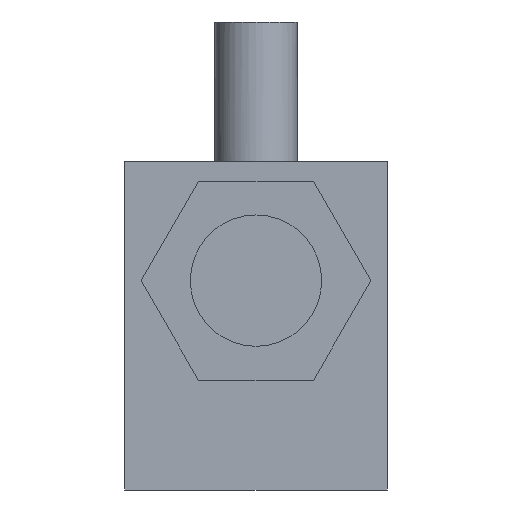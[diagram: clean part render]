
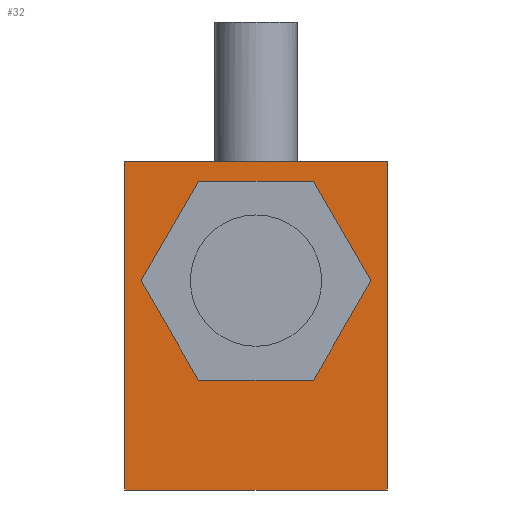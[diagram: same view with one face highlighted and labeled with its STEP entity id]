
A CAD part, front view. The second image highlights one B-rep face of the part: STEP entity #32.
In plain terms, the highlighted planar face has unit normal (0, -1, 0).
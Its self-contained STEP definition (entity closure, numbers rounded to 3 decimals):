
#32 = ADVANCED_FACE ( 'NONE', ( #408, #359 ), #358, .T. ) ;
#33 = EDGE_LOOP ( 'NONE', ( #55, #58, #49, #93 ) ) ;
#34 = VERTEX_POINT ( 'NONE', #502 ) ;
#47 = EDGE_CURVE ( 'NONE', #57, #48, #356, .T. ) ;
#48 = VERTEX_POINT ( 'NONE', #352 ) ;
#49 = ORIENTED_EDGE ( 'NONE', *, *, #50, .T. ) ;
#50 = EDGE_CURVE ( 'NONE', #48, #51, #370, .T. ) ;
#51 = VERTEX_POINT ( 'NONE', #366 ) ;
#55 = ORIENTED_EDGE ( 'NONE', *, *, #56, .T. ) ;
#56 = EDGE_CURVE ( 'NONE', #34, #57, #365, .T. ) ;
#57 = VERTEX_POINT ( 'NONE', #467 ) ;
#58 = ORIENTED_EDGE ( 'NONE', *, *, #47, .T. ) ;
#90 = EDGE_CURVE ( 'NONE', #91, #209, #439, .T. ) ;
#91 = VERTEX_POINT ( 'NONE', #623 ) ;
#92 = ORIENTED_EDGE ( 'NONE', *, *, #211, .F. ) ;
#93 = ORIENTED_EDGE ( 'NONE', *, *, #218, .T. ) ;
#94 = EDGE_CURVE ( 'NONE', #95, #261, #619, .T. ) ;
#95 = VERTEX_POINT ( 'NONE', #653 ) ;
#105 = ORIENTED_EDGE ( 'NONE', *, *, #106, .F. ) ;
#106 = EDGE_CURVE ( 'NONE', #261, #251, #537, .T. ) ;
#170 = ORIENTED_EDGE ( 'NONE', *, *, #94, .F. ) ;
#208 = EDGE_CURVE ( 'NONE', #209, #95, #688, .T. ) ;
#209 = VERTEX_POINT ( 'NONE', #736 ) ;
#210 = ORIENTED_EDGE ( 'NONE', *, *, #90, .F. ) ;
#211 = EDGE_CURVE ( 'NONE', #212, #91, #735, .T. ) ;
#212 = VERTEX_POINT ( 'NONE', #723 ) ;
#213 = ORIENTED_EDGE ( 'NONE', *, *, #214, .F. ) ;
#214 = EDGE_CURVE ( 'NONE', #251, #212, #722, .T. ) ;
#217 = EDGE_LOOP ( 'NONE', ( #170, #262, #210, #92, #213, #105 ) ) ;
#218 = EDGE_CURVE ( 'NONE', #51, #34, #660, .T. ) ;
#251 = VERTEX_POINT ( 'NONE', #879 ) ;
#261 = VERTEX_POINT ( 'NONE', #956 ) ;
#262 = ORIENTED_EDGE ( 'NONE', *, *, #208, .F. ) ;
#352 = CARTESIAN_POINT ( 'NONE',  ( 16., -4., -25.5 ) ) ;
#353 = DIRECTION ( 'NONE',  ( 1., 0., 0. ) ) ;
#354 = VECTOR ( 'NONE', #353, 1000. ) ;
#355 = CARTESIAN_POINT ( 'NONE',  ( -16., -4., -25.5 ) ) ;
#356 = LINE ( 'NONE', #355, #354 ) ;
#357 = AXIS2_PLACEMENT_3D ( 'NONE', #501, #500, #499 ) ;
#358 = PLANE ( 'NONE',  #357 ) ;
#359 = FACE_BOUND ( 'NONE', #217, .T. ) ;
#365 = LINE ( 'NONE', #470, #469 ) ;
#366 = CARTESIAN_POINT ( 'NONE',  ( 16., -4., 14.5 ) ) ;
#367 = DIRECTION ( 'NONE',  ( 0., 0., 1. ) ) ;
#368 = VECTOR ( 'NONE', #367, 1000. ) ;
#369 = CARTESIAN_POINT ( 'NONE',  ( 16., -4., 14.5 ) ) ;
#370 = LINE ( 'NONE', #369, #368 ) ;
#408 = FACE_OUTER_BOUND ( 'NONE', #33, .T. ) ;
#439 = LINE ( 'NONE', #504, #505 ) ;
#467 = CARTESIAN_POINT ( 'NONE',  ( -16., -4., -25.5 ) ) ;
#468 = DIRECTION ( 'NONE',  ( 0., 0., -1. ) ) ;
#469 = VECTOR ( 'NONE', #468, 1000. ) ;
#470 = CARTESIAN_POINT ( 'NONE',  ( -16., -4., 14.5 ) ) ;
#499 = DIRECTION ( 'NONE',  ( 0., 0., -1. ) ) ;
#500 = DIRECTION ( 'NONE',  ( 0., -1., 0. ) ) ;
#501 = CARTESIAN_POINT ( 'NONE',  ( -16., -4., -25.5 ) ) ;
#502 = CARTESIAN_POINT ( 'NONE',  ( -16., -4., 14.5 ) ) ;
#504 = CARTESIAN_POINT ( 'NONE',  ( -7., -4., -12.124 ) ) ;
#505 = VECTOR ( 'NONE', #530, 1000. ) ;
#530 = DIRECTION ( 'NONE',  ( 1., 0., 0. ) ) ;
#537 = LINE ( 'NONE', #560, #559 ) ;
#539 = CARTESIAN_POINT ( 'NONE',  ( 14., -4., 0. ) ) ;
#558 = DIRECTION ( 'NONE',  ( -1., 0., 0. ) ) ;
#559 = VECTOR ( 'NONE', #558, 1000. ) ;
#560 = CARTESIAN_POINT ( 'NONE',  ( 7., -4., 12.124 ) ) ;
#567 = VECTOR ( 'NONE', #631, 1000. ) ;
#619 = LINE ( 'NONE', #539, #567 ) ;
#623 = CARTESIAN_POINT ( 'NONE',  ( -7., -4., -12.124 ) ) ;
#631 = DIRECTION ( 'NONE',  ( -0.5, 0., 0.866 ) ) ;
#653 = CARTESIAN_POINT ( 'NONE',  ( 14., -4., 0. ) ) ;
#660 = LINE ( 'NONE', #790, #789 ) ;
#685 = DIRECTION ( 'NONE',  ( 0.5, 0., 0.866 ) ) ;
#686 = VECTOR ( 'NONE', #685, 1000. ) ;
#687 = CARTESIAN_POINT ( 'NONE',  ( 7., -4., -12.124 ) ) ;
#688 = LINE ( 'NONE', #687, #686 ) ;
#719 = DIRECTION ( 'NONE',  ( -0.5, 0., -0.866 ) ) ;
#720 = VECTOR ( 'NONE', #719, 1000. ) ;
#721 = CARTESIAN_POINT ( 'NONE',  ( -7., -4., 12.124 ) ) ;
#722 = LINE ( 'NONE', #721, #720 ) ;
#723 = CARTESIAN_POINT ( 'NONE',  ( -14., -4., 0. ) ) ;
#732 = DIRECTION ( 'NONE',  ( 0.5, 0., -0.866 ) ) ;
#733 = VECTOR ( 'NONE', #732, 1000. ) ;
#734 = CARTESIAN_POINT ( 'NONE',  ( -14., -4., 0. ) ) ;
#735 = LINE ( 'NONE', #734, #733 ) ;
#736 = CARTESIAN_POINT ( 'NONE',  ( 7., -4., -12.124 ) ) ;
#788 = DIRECTION ( 'NONE',  ( -1., 0., 0. ) ) ;
#789 = VECTOR ( 'NONE', #788, 1000. ) ;
#790 = CARTESIAN_POINT ( 'NONE',  ( -16., -4., 14.5 ) ) ;
#879 = CARTESIAN_POINT ( 'NONE',  ( -7., -4., 12.124 ) ) ;
#956 = CARTESIAN_POINT ( 'NONE',  ( 7., -4., 12.124 ) ) ;
